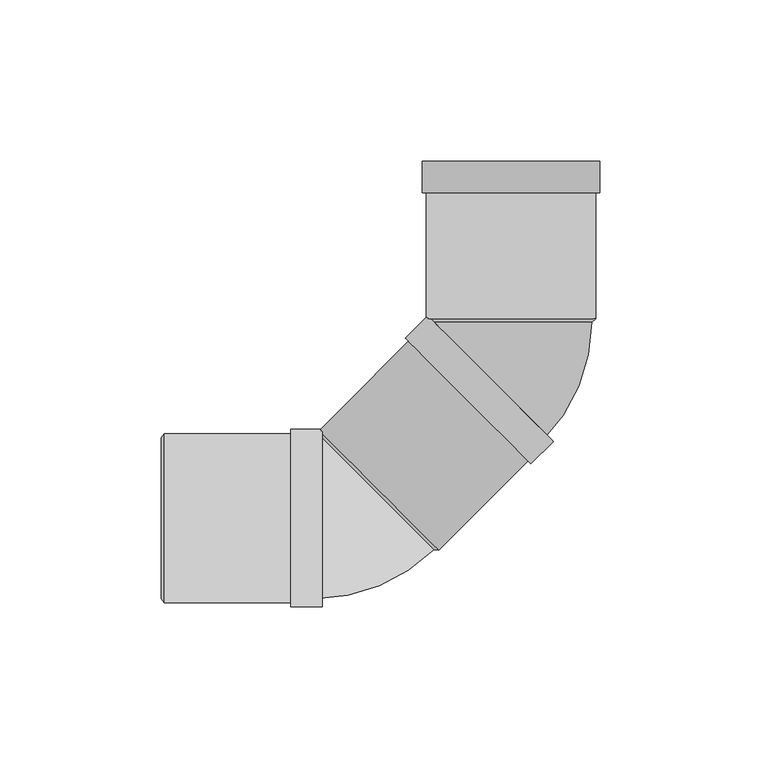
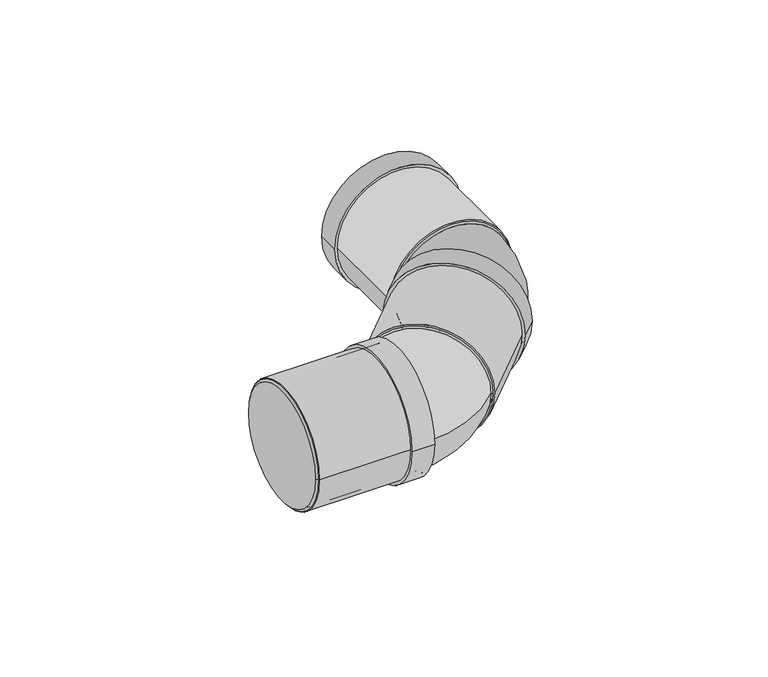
"""IFC4 building model written with IfcOpenShell, lengths in millimetres: pipe fitting geometry, Superdrain HT Bend Composite 2x45 : Superdrain HT Bend Composite 2x45."""

from ifc_helpers import new_model, si_unit, point, frame, origin, origin_2d, place, context, project, spatial, polyline, circle_curve, ellipse_curve, trimmed, segment, composite_curve, outline, extrude, source, transform, mapped, element, save
from ifc_brep_helpers import plane_surface, revolved_surface, advanced_brep


def pipe_fitting_8ddb3aa6(model_context):
    return source(origin(), model_context, "Body", "SolidModel", [
        advanced_brep(
        [(25.0, 60.838896, 0.0), (-25.0, 60.838896, 0.0), (9.7580736, 24.0416306, 0.0), (-25.5972655, 59.3969696, 0.0)],
        [
            (0, 1, circle_curve(frame((0.0, 60.838896, 0.0), z_axis=(0.0, 1.0, 0.0), x_axis=(-1.0, 0.0, 0.0)), 25.0)),
            (1, 0, circle_curve(frame((0.0, 60.838896, 0.0), z_axis=(0.0, 1.0, 0.0), x_axis=(-1.0, 0.0, 0.0)), 25.0)),
            (2, 3, circle_curve(frame((-7.9195959, 41.7193001, 0.0), z_axis=(-0.7071067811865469, -0.7071067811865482, 0.0), x_axis=(-0.7071067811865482, 0.7071067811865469, 0.0)), 25.0)),
            (3, 2, circle_curve(frame((-7.9195959, 41.7193001, 0.0), z_axis=(-0.7071067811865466, -0.7071067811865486, 0.0), x_axis=(-0.7071067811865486, 0.7071067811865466, 0.0)), 25.0)),
            (3, 1, circle_curve(frame((-27.0391919, 60.838896, 0.0), z_axis=(0.0, 0.0, 1.0), x_axis=(0.707106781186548, 0.7071067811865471, 0.0)), 2.0391919)),
            (0, 2, circle_curve(frame((-27.0391919, 60.838896, 0.0), z_axis=(0.0, 0.0, -1.0), x_axis=(0.707106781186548, 0.7071067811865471, 0.0)), 52.0391919)),
        ],
        [
            plane_surface(frame((0.0, 60.838896, 0.0), z_axis=(0.0, 1.0, 0.0), x_axis=(0.0, 0.0, -1.0))),
            plane_surface(frame((-7.9195959, 41.7193001, 0.0), z_axis=(-0.7071067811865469, -0.7071067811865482, 0.0), x_axis=(0.0, 0.0, -1.0))),
            revolved_surface(trimmed(ellipse_curve(frame((-7.9195959, 79.958492, 0.0), z_axis=(0.7071067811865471, -0.707106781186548, 0.0), x_axis=(-0.707106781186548, -0.7071067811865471, 0.0)), 25.0, 25.0), [point((-25.5972655, 62.2808225, 0.0))], [point((9.7580736, 97.6361615, 0.0))], True, "CARTESIAN"), (-27.0391919, 60.838896, 0.0), (0.0, 0.0, 1.0)),
            revolved_surface(trimmed(ellipse_curve(frame((-7.9195959, 79.958492, 0.0), z_axis=(0.7071067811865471, -0.707106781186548, 0.0), x_axis=(-0.707106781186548, -0.7071067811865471, 0.0)), 25.0, 25.0), [point((9.7580736, 97.6361615, 0.0))], [point((-25.5972655, 62.2808225, 0.0))], True, "CARTESIAN"), (-27.0391919, 60.838896, 0.0), (0.0, 0.0, 1.0)),
        ],
        [
            (0, [[1, 2]]),
            (1, [[3, 4]]),
            (2, [[-4, 5, -1, 6]]),
            (3, [[-3, -6, -2, -5]]),
        ],
    ),
        extrude(outline(composite_curve([segment(trimmed(circle_curve(origin_2d(), 26.25), [point((0.0, 26.25))], [point((0.0, -26.25))], False, "CARTESIAN"), True, "CONTINUOUS"), segment(trimmed(circle_curve(origin_2d(), 26.25), [point((0.0, -26.25))], [point((0.0, 26.25))], False, "CARTESIAN"), True, "CONTINUOUS")], self_intersect=False), holes=[composite_curve([segment(trimmed(circle_curve(origin_2d(), 25.0), [point((0.0, 25.0))], [point((0.0, -25.0))], True, "CARTESIAN"), True, "CONTINUOUS"), segment(trimmed(circle_curve(origin_2d(), 25.0), [point((0.0, -25.0))], [point((0.0, 25.0))], True, "CARTESIAN"), True, "CONTINUOUS")], self_intersect=False)]), frame((0.0, 61.838896, 0.0), z_axis=(0.0, 1.0, 0.0), x_axis=(0.0, 0.0, 1.0)), (0.0, 0.0, 1.0), 49.0),
        extrude(outline(composite_curve([segment(trimmed(circle_curve(origin_2d(), 27.5625), [point((0.0, -27.5625))], [point((0.0, 27.5625))], False, "CARTESIAN"), True, "CONTINUOUS"), segment(trimmed(circle_curve(origin_2d(), 27.5625), [point((0.0, 27.5625))], [point((0.0, -27.5625))], False, "CARTESIAN"), True, "CONTINUOUS")], self_intersect=False), holes=[composite_curve([segment(trimmed(circle_curve(origin_2d(), 25.0), [point((0.0, -25.0))], [point((0.0, 25.0))], True, "CARTESIAN"), True, "CONTINUOUS"), segment(trimmed(circle_curve(origin_2d(), 25.0), [point((0.0, 25.0))], [point((0.0, -25.0))], True, "CARTESIAN"), True, "CONTINUOUS")], self_intersect=False)]), frame((0.0, 101.038896, 0.0), z_axis=(0.0, 1.0, 0.0), x_axis=(0.0, 0.0, 1.0)), (0.0, 0.0, 1.0), 9.8),
        advanced_brep(
        [(26.25, 61.838896, 0.0), (-26.25, 61.838896, 0.0), (25.0, 60.838896, 0.0), (-25.0, 60.838896, 0.0)],
        [
            (0, 1, circle_curve(frame((0.0, 61.838896, 0.0), z_axis=(0.0, 1.0, 0.0), x_axis=(1.0, 0.0, 0.0)), 26.25)),
            (1, 0, circle_curve(frame((0.0, 61.838896, 0.0), z_axis=(0.0, 1.0, 0.0), x_axis=(-1.0, 0.0, 0.0)), 26.25)),
            (2, 3, circle_curve(frame((0.0, 60.838896, 0.0), z_axis=(0.0, -1.0, 0.0), x_axis=(-1.0, 0.0, 0.0)), 25.0)),
            (3, 2, circle_curve(frame((0.0, 60.838896, 0.0), z_axis=(0.0, -1.0, 0.0), x_axis=(1.0, 0.0, 0.0)), 25.0)),
            (3, 1),
            (0, 2),
        ],
        [
            plane_surface(frame((0.0, 61.838896, 0.0), z_axis=(0.0, 1.0, 0.0), x_axis=(0.0, 0.0, -1.0))),
            plane_surface(frame((0.0, 60.838896, 0.0), z_axis=(0.0, -1.0, 0.0), x_axis=(0.0, 0.0, -1.0))),
            revolved_surface(polyline([(-25.0, 60.838896, 0.0), (-26.25, 61.838896, 0.0)]), (0.0, 40.838896, 0.0), (0.0, 1.0, 0.0)),
            revolved_surface(polyline([(25.0, 60.838896, 0.0), (26.25, 61.838896, 0.0)]), (0.0, 40.838896, 0.0), (0.0, 1.0, 0.0)),
        ],
        [
            (0, [[1, 2]]),
            (1, [[3, 4]]),
            (2, [[-4, 5, -1, 6]]),
            (3, [[-3, -6, -2, -5]]),
        ],
    ),
        extrude(outline(composite_curve([segment(trimmed(circle_curve(origin_2d(), 25.0), [point((0.0, -25.0))], [point((0.0, 25.0))], False, "CARTESIAN"), True, "CONTINUOUS"), segment(trimmed(circle_curve(origin_2d(), 25.0), [point((0.0, 25.0))], [point((0.0, -25.0))], False, "CARTESIAN"), True, "CONTINUOUS")], self_intersect=False)), frame((-41.0121933, 8.6267027, 0.0), z_axis=(0.707106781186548, 0.7071067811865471, 0.0), x_axis=(0.0, 0.0, -1.0)), (0.0, 0.0, 1.0), 46.8),
        extrude(outline(composite_curve([segment(trimmed(circle_curve(origin_2d(), 26.25), [point((26.25, 0.0))], [point((-26.25, 0.0))], False, "CARTESIAN"), True, "CONTINUOUS"), segment(trimmed(circle_curve(origin_2d(), 26.25), [point((-26.25, 0.0))], [point((26.25, 0.0))], False, "CARTESIAN"), True, "CONTINUOUS")], self_intersect=False), holes=[composite_curve([segment(trimmed(circle_curve(origin_2d(), 25.0), [point((25.0, 0.0))], [point((-25.0, 0.0))], True, "CARTESIAN"), True, "CONTINUOUS"), segment(trimmed(circle_curve(origin_2d(), 25.0), [point((-25.0, 0.0))], [point((25.0, 0.0))], True, "CARTESIAN"), True, "CONTINUOUS")], self_intersect=False)]), frame((-107.638896, 0.0, 0.0), z_axis=(1.0, 0.0, 0.0), x_axis=(0.0, 1.0, 0.0)), (0.0, 0.0, 1.0), 49.0),
        extrude(outline(composite_curve([segment(trimmed(circle_curve(origin_2d(), 27.5625), [point((27.5625, 0.0))], [point((-27.5625, 0.0))], False, "CARTESIAN"), True, "CONTINUOUS"), segment(trimmed(circle_curve(origin_2d(), 27.5625), [point((-27.5625, 0.0))], [point((27.5625, 0.0))], False, "CARTESIAN"), True, "CONTINUOUS")], self_intersect=False), holes=[composite_curve([segment(trimmed(circle_curve(origin_2d(), 25.0), [point((25.0, 0.0))], [point((-25.0, 0.0))], True, "CARTESIAN"), True, "CONTINUOUS"), segment(trimmed(circle_curve(origin_2d(), 25.0), [point((-25.0, 0.0))], [point((25.0, 0.0))], True, "CARTESIAN"), True, "CONTINUOUS")], self_intersect=False)]), frame((-68.438896, 0.0, 0.0), z_axis=(1.0, 0.0, 0.0), x_axis=(0.0, 1.0, 0.0)), (0.0, 0.0, 1.0), 9.8),
        advanced_brep(
        [(-108.638896, 25.0, 0.0), (-108.638896, -25.0, 0.0), (-107.638896, 26.25, 0.0), (-107.638896, -26.25, 0.0)],
        [
            (0, 1, circle_curve(frame((-108.638896, 0.0, 0.0), z_axis=(-1.0, 0.0, 0.0), x_axis=(0.0, 1.0, 0.0)), 25.0)),
            (1, 0, circle_curve(frame((-108.638896, 0.0, 0.0), z_axis=(-1.0, 0.0, 0.0), x_axis=(0.0, -1.0, 0.0)), 25.0)),
            (2, 3, circle_curve(frame((-107.638896, 0.0, 0.0), z_axis=(1.0, 0.0, 0.0), x_axis=(0.0, -1.0, 0.0)), 26.25)),
            (3, 2, circle_curve(frame((-107.638896, 0.0, 0.0), z_axis=(1.0, 0.0, 0.0), x_axis=(0.0, 1.0, 0.0)), 26.25)),
            (3, 1),
            (0, 2),
        ],
        [
            plane_surface(frame((-108.638896, 0.0, 0.0), z_axis=(-1.0, 0.0, 0.0), x_axis=(0.0, 0.0, -1.0))),
            plane_surface(frame((-107.638896, 0.0, 0.0), z_axis=(1.0, 0.0, 0.0), x_axis=(0.0, 0.0, -1.0))),
            revolved_surface(polyline([(-108.638896, 25.0, 0.0), (-107.638896, 26.25, 0.0)]), (-128.638896, 0.0, 0.0), (1.0, 0.0, 0.0)),
            revolved_surface(polyline([(-108.638896, -25.0, 0.0), (-107.638896, -26.25, 0.0)]), (-128.638896, 0.0, 0.0), (1.0, 0.0, 0.0)),
        ],
        [
            (0, [[1, 2]]),
            (1, [[3, 4]]),
            (2, [[-4, 5, -1, 6]]),
            (3, [[-3, -6, -2, -5]]),
        ],
    ),
        advanced_brep(
        [(-24.0416306, -9.7580736, 0.0), (-59.3969696, 25.5972655, 0.0), (-60.838896, -25.0, 0.0), (-60.838896, 25.0, 0.0)],
        [
            (0, 1, circle_curve(frame((-41.7193001, 7.9195959, 0.0), z_axis=(0.7071067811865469, 0.7071067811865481, 0.0), x_axis=(-0.7071067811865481, 0.7071067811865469, 0.0)), 25.0)),
            (1, 0, circle_curve(frame((-41.7193001, 7.9195959, 0.0), z_axis=(0.707106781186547, 0.707106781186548, 0.0), x_axis=(-0.707106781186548, 0.707106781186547, 0.0)), 25.0)),
            (2, 3, circle_curve(frame((-60.838896, 0.0, 0.0), z_axis=(-1.0, 0.0, 0.0), x_axis=(0.0, 1.0, 0.0)), 25.0)),
            (3, 2, circle_curve(frame((-60.838896, 0.0, 0.0), z_axis=(-1.0, 0.0, 0.0), x_axis=(0.0, 1.0, 0.0)), 25.0)),
            (3, 1, circle_curve(frame((-60.838896, 27.0391919, 0.0), z_axis=(0.0, 0.0, 1.0), x_axis=(1.0, 0.0, 0.0)), 2.0391919)),
            (0, 2, circle_curve(frame((-60.838896, 27.0391919, 0.0), z_axis=(0.0, 0.0, -1.0), x_axis=(1.0, 0.0, 0.0)), 52.0391919)),
        ],
        [
            plane_surface(frame((-41.7193001, 7.9195959, 0.0), z_axis=(0.707106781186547, 0.7071067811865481, 0.0), x_axis=(0.0, 0.0, -1.0))),
            plane_surface(frame((-60.838896, 0.0, 0.0), z_axis=(-1.0, 0.0, 0.0), x_axis=(0.0, 0.0, -1.0))),
            revolved_surface(trimmed(ellipse_curve(frame((-33.7997041, 27.0391919, 0.0), z_axis=(0.0, -1.0, 0.0), x_axis=(-1.0, 0.0, 0.0)), 25.0, 25.0), [point((-58.7997041, 27.0391919, 0.0))], [point((-8.7997041, 27.0391919, 0.0))], True, "CARTESIAN"), (-60.838896, 27.0391919, 0.0), (0.0, 0.0, 1.0)),
            revolved_surface(trimmed(ellipse_curve(frame((-33.7997041, 27.0391919, 0.0), z_axis=(0.0, -1.0, 0.0), x_axis=(-1.0, 0.0, 0.0)), 25.0, 25.0), [point((-8.7997041, 27.0391919, 0.0))], [point((-58.7997041, 27.0391919, 0.0))], True, "CARTESIAN"), (-60.838896, 27.0391919, 0.0), (0.0, 0.0, 1.0)),
        ],
        [
            (0, [[1, 2]]),
            (1, [[3, 4]]),
            (2, [[-4, 5, -1, 6]]),
            (3, [[-3, -6, -2, -5]]),
        ],
    ),
        extrude(outline(composite_curve([segment(trimmed(circle_curve(origin_2d(), 26.25), [point((0.0, 26.25))], [point((0.0, -26.25))], False, "CARTESIAN"), True, "CONTINUOUS"), segment(trimmed(circle_curve(origin_2d(), 26.25), [point((0.0, -26.25))], [point((0.0, 26.25))], False, "CARTESIAN"), True, "CONTINUOUS")], self_intersect=False), holes=[composite_curve([segment(trimmed(circle_curve(origin_2d(), 25.0), [point((0.0, 25.0))], [point((0.0, -25.0))], True, "CARTESIAN"), True, "CONTINUOUS"), segment(trimmed(circle_curve(origin_2d(), 25.0), [point((0.0, -25.0))], [point((0.0, 25.0))], True, "CARTESIAN"), True, "CONTINUOUS")], self_intersect=False)]), frame((-41.0121933, 8.6267027, 0.0), z_axis=(0.7071067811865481, 0.7071067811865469, 0.0), x_axis=(0.0, 0.0, 1.0)), (0.0, 0.0, 1.0), 49.0),
        extrude(outline(composite_curve([segment(trimmed(circle_curve(origin_2d(), 27.5625), [point((0.0, -27.5624999))], [point((0.0, 27.5625001))], False, "CARTESIAN"), True, "CONTINUOUS"), segment(trimmed(circle_curve(origin_2d(), 27.5625), [point((0.0, 27.5625001))], [point((0.0, -27.5624999))], False, "CARTESIAN"), True, "CONTINUOUS")], self_intersect=False), holes=[composite_curve([segment(trimmed(circle_curve(origin_2d(), 25.0), [point((0.0, -25.0))], [point((0.0, 25.0))], True, "CARTESIAN"), True, "CONTINUOUS"), segment(trimmed(circle_curve(origin_2d(), 25.0), [point((0.0, 25.0))], [point((0.0, -25.0))], True, "CARTESIAN"), True, "CONTINUOUS")], self_intersect=False)]), frame((-13.2936075, 36.3452886, 0.0), z_axis=(0.7071067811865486, 0.7071067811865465, 0.0), x_axis=(0.0, 0.0, 1.0)), (0.0, 0.0, 1.0), 9.8),
        advanced_brep(
        [(-22.4506403, -9.9348503, 0.0), (-59.5737463, 27.1882557, 0.0), (-24.0416306, -9.7580736, 0.0), (-59.3969696, 25.5972655, 0.0)],
        [
            (0, 1, circle_curve(frame((-41.0121933, 8.6267027, 0.0), z_axis=(0.7071067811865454, 0.7071067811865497, 0.0), x_axis=(0.7071067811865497, -0.7071067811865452, 0.0)), 26.25)),
            (1, 0, circle_curve(frame((-41.0121933, 8.6267027, 0.0), z_axis=(0.7071067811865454, 0.7071067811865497, 0.0), x_axis=(-0.7071067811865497, 0.7071067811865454, 0.0)), 26.25)),
            (2, 3, circle_curve(frame((-41.7193001, 7.9195959, 0.0), z_axis=(-0.7071067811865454, -0.7071067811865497, 0.0), x_axis=(-0.7071067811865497, 0.7071067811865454, 0.0)), 25.0)),
            (3, 2, circle_curve(frame((-41.7193001, 7.9195959, 0.0), z_axis=(-0.7071067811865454, -0.7071067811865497, 0.0), x_axis=(0.7071067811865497, -0.7071067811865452, 0.0)), 25.0)),
            (3, 1),
            (0, 2),
        ],
        [
            plane_surface(frame((-41.0121933, 8.6267027, 0.0), z_axis=(0.7071067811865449, 0.7071067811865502, 0.0), x_axis=(0.0, 0.0, -1.0))),
            plane_surface(frame((-41.7193001, 7.9195959, 0.0), z_axis=(-0.7071067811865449, -0.7071067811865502, 0.0), x_axis=(0.0, 0.0, -1.0))),
            revolved_surface(polyline([(-59.39696959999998, 25.597265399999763, 0.0), (-59.5737463, 27.1882557, 0.0)]), (-55.8614357, -6.2225397, 0.0), (0.7071067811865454, 0.7071067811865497, 0.0)),
            revolved_surface(polyline([(-24.041630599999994, -9.758073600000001, 0.0), (-22.450640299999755, -9.93485030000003, 0.0)]), (-55.8614357, -6.2225397, 0.0), (0.7071067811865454, 0.7071067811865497, 0.0)),
        ],
        [
            (0, [[1, 2]]),
            (1, [[3, 4]]),
            (2, [[-4, 5, -1, 6]]),
            (3, [[-3, -6, -2, -5]]),
        ],
    ),
        extrude(outline(composite_curve([segment(trimmed(circle_curve(origin_2d(), 25.0), [point((-25.0, 0.0))], [point((25.0, 0.0))], False, "CARTESIAN"), True, "CONTINUOUS"), segment(trimmed(circle_curve(origin_2d(), 25.0), [point((25.0, 0.0))], [point((-25.0, 0.0))], False, "CARTESIAN"), True, "CONTINUOUS")], self_intersect=False)), frame((-107.638896, 0.0, 0.0), z_axis=(1.0, 0.0, 0.0), x_axis=(0.0, 1.0, 0.0)), (0.0, 0.0, 1.0), 46.8),
    ])


if __name__ == "__main__":
    model = new_model("IFC4")
    model_context = context("Model", 3, world=origin())
    ifc_project = project(units=[si_unit("LENGTHUNIT", "METRE", prefix="MILLI")], contexts=[model_context])
    site = spatial("IfcSite", under=ifc_project)
    building = spatial("IfcBuilding", under=site)
    placement = place(None, origin())
    pipe_fitting_shape = pipe_fitting_8ddb3aa6(model_context)
    element("IfcPipeFitting", 1, ObjectType="Superdrain HT Bend Composite 2x45 : Superdrain HT Bend Composite 2x45", at=placement, inside=building, context=model_context, shape_type="MappedRepresentation", body=[
        mapped(pipe_fitting_shape, transform((0.0, 0.0, 0.0), x_axis=(1.0, 0.0, 0.0), y_axis=(0.0, 1.0, 0.0), z_axis=(0.0, 0.0, 1.0))),
    ])
    save(model, "model.ifc")
